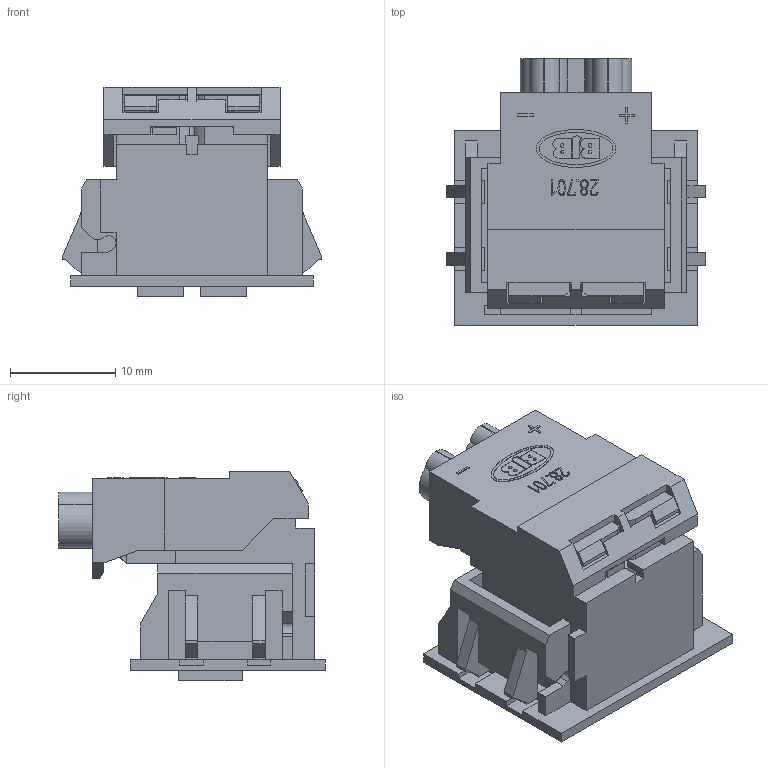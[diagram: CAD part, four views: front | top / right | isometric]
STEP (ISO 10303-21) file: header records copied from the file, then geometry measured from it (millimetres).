
FILE_DESCRIPTION(/* description */ ('Unknown'),/* implementation_level */ '2;1');
FILE_NAME(/* name */ '01V-S2C-01',/* time_stamp */ '2024-06-07T14:58:41+02:00',/* author */ ('Unknown'),/* organization */ ('Unknown'),/* preprocessor_version */ 'ST-DEVELOPER v16.7',/* originating_system */ 'Solid Edge',/* authorisation */ 'Unknown');
FILE_SCHEMA (('AUTOMOTIVE_DESIGN {1 0 10303 214 3 1 1}'));
Length unit declared in the file: millimetre
Products named in the file (3): 01V-S2C-01; 01V-S06-0F; 01V-S2E-02
Assembly tree (2 placements, depth 2):
  01V-S2C-01
    01V-S06-0F
    01V-S2E-02
Bounding box: 24.6 x 25.3 x 19.9 mm (x, y, z)
Volume: 3414 mm3; surface area: 6559.3 mm2
Topology: 2 solids, 2 shells, 546 faces, 1564 edges, 1036 vertices
Faces by surface type: plane 486, cylinder 46, bspline 12, cone 2
Entity records: 21855 total; most frequent: CARTESIAN_POINT 3771, ORIENTED_EDGE 3116, DIRECTION 2646, EDGE_CURVE 1558, LINE 1364, VECTOR 1364, VERTEX_POINT 1036, AXIS2_PLACEMENT_3D 641
